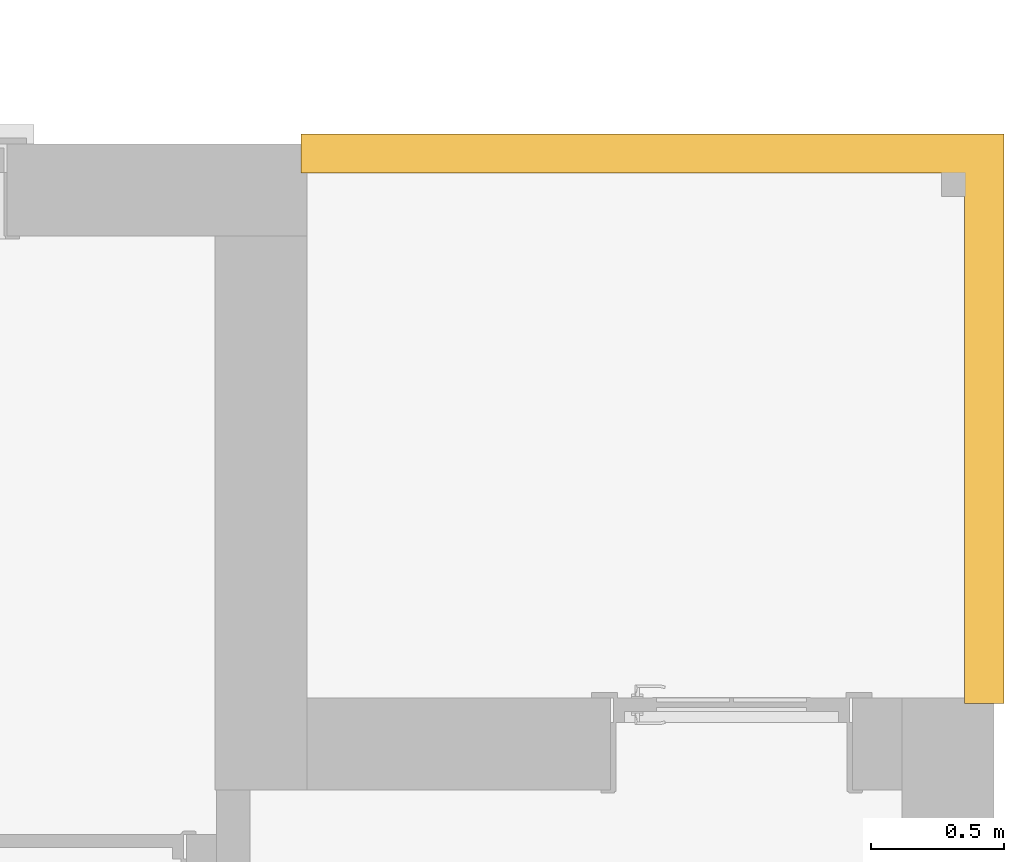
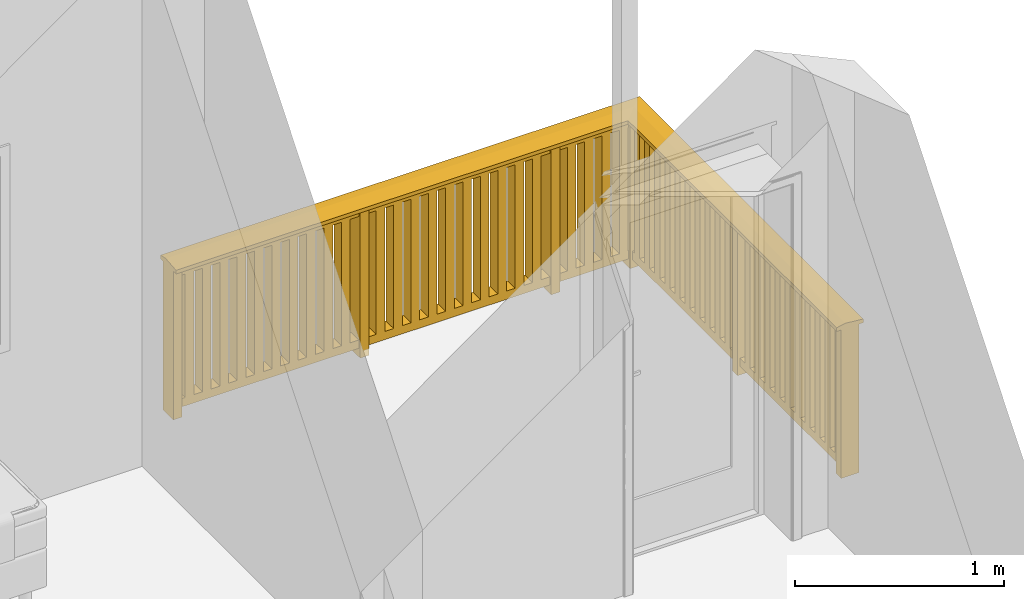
# One storey, part 34 of 44: 1 railing.
"""IFC2X3 building model written with IfcOpenShell, lengths in millimetres."""

import ifcopenshell
import ifcopenshell.guid

model = None  # the IFC model being written
_history = None  # IfcOwnerHistory: only IFC2X3 demands one
_inside = {}  # id of a spatial element -> (the spatial element, [elements in it])
_under = {}  # id of a project, library or spatial element -> (it, [spatial elements below it])
_declared = {}  # id of a project -> (the project, [libraries it declares])
_typed = {}  # id of a type object -> (the type object, [elements of that type])
_made_of = {}  # id of a material, layer set ... -> (it, [elements and type objects made of it])


def new_model(schema):
    """Start an empty IFC model of exactly this schema.

    Asked for "IFC4X3", IfcOpenShell would pick the latest addendum, in which some entities
    have other attributes; the version numbers below select the first issue.
    IFC2X3 requires an IfcOwnerHistory on every rooted entity: one is made here for all.
    """
    global model, _history
    if schema == "IFC4X3":
        model = ifcopenshell.file(schema_version=(4, 3, 0, 0))
    else:
        model = ifcopenshell.file(schema=schema)
    _inside.clear()
    _under.clear()
    _declared.clear()
    _typed.clear()
    _made_of.clear()
    _history = None
    if model.schema == "IFC2X3":
        org = make("IfcOrganization", Name="unknown")
        user = make(
            "IfcPersonAndOrganization",
            ThePerson=make("IfcPerson", FamilyName="unknown"),
            TheOrganization=org,
        )
        app = make(
            "IfcApplication",
            ApplicationDeveloper=org,
            Version="unknown",
            ApplicationFullName="unknown",
            ApplicationIdentifier="unknown",
        )
        _history = make(
            "IfcOwnerHistory",
            OwningUser=user,
            OwningApplication=app,
            ChangeAction="ADDED",
            CreationDate=0,
        )
    return model


def make(cls, **values):
    """One entity of the class cls with the attributes given. An attribute that is None is left unset."""
    return model.create_entity(
        cls, **{name: value for name, value in values.items() if value is not None}
    )


def entity(cls, *values):
    """Any entity or typed value of the class cls, its attributes in the order of the schema. None: left unset."""
    e = model.create_entity(cls)
    for i, value in enumerate(values):
        if value is not None:
            e[i] = value
    return e


def rooted(cls, **values):
    """An entity with a GlobalId (a new one), such as an element, a storey or a relation."""
    return make(cls, GlobalId=ifcopenshell.guid.new(), OwnerHistory=_history, **values)


def si_unit(unit_type, name, prefix=None):
    """IfcSIUnit, for example si_unit("LENGTHUNIT", "METRE", prefix="MILLI")."""
    return make("IfcSIUnit", UnitType=unit_type, Prefix=prefix, Name=name)


def converted_unit(unit_type, name, factor, base, dimensions=None, offset=None):
    """IfcConversionBasedUnit, such as the inch: factor (a typed value) times the base unit."""
    return make(
        "IfcConversionBasedUnit"
        if offset is None
        else "IfcConversionBasedUnitWithOffset",
        ConversionOffset=offset,
        Dimensions=None
        if dimensions is None
        else entity("IfcDimensionalExponents", *dimensions),
        UnitType=unit_type,
        Name=name,
        ConversionFactor=make(
            "IfcMeasureWithUnit", ValueComponent=factor, UnitComponent=base
        ),
    )


def assignment(units):
    """IfcUnitAssignment: the units of a project."""
    return None if units is None else make("IfcUnitAssignment", Units=units)


def point(xyz):
    """IfcCartesianPoint."""
    return None if xyz is None else make("IfcCartesianPoint", Coordinates=xyz)


def direction(xyz):
    """IfcDirection."""
    return None if xyz is None else make("IfcDirection", DirectionRatios=xyz)


def frame(location, z_axis=None, x_axis=None):
    """IfcAxis2Placement3D, a coordinate frame: its origin and axes. An axis left out is left unset."""
    return make(
        "IfcAxis2Placement3D",
        Location=point(location),
        Axis=direction(z_axis),
        RefDirection=direction(x_axis),
    )


def origin():
    """The frame at (0, 0, 0) with its axes left unset."""
    return frame((0.0, 0.0, 0.0))


def place(relative_to, where):
    """IfcLocalPlacement: puts the frame where relative to a parent placement (None: the world)."""
    return make(
        "IfcLocalPlacement", PlacementRelTo=relative_to, RelativePlacement=where
    )


def context(
    kind, dimensions, precision=None, world=None, true_north=None, identifier=None
):
    """IfcGeometricRepresentationContext, for example the 3D "Model" context."""
    return make(
        "IfcGeometricRepresentationContext",
        ContextIdentifier=identifier,
        ContextType=kind,
        CoordinateSpaceDimension=dimensions,
        Precision=precision,
        WorldCoordinateSystem=world,
        TrueNorth=true_north,
    )


def subcontext(parent, identifier, kind, view, scale=None):
    """IfcGeometricRepresentationSubContext, for example "Body" below "Model"."""
    return make(
        "IfcGeometricRepresentationSubContext",
        ContextIdentifier=identifier,
        ContextType=kind,
        ParentContext=parent,
        TargetScale=scale,
        TargetView=view,
    )


def project(units=None, contexts=None):
    """IfcProject with its units and contexts."""
    return rooted(
        "IfcProject",
        Name="project",
        RepresentationContexts=contexts,
        UnitsInContext=assignment(units),
    )


def spatial(cls, under=None, at=None, **own):
    """A site, building, storey or space (cls), placed at a placement, below another one or the project."""
    s = rooted(cls, ObjectPlacement=at, **own)
    if under is not None:
        _under.setdefault(under.id(), (under, []))[1].append(s)
    return s


def faces_of(points, faces, orient=None, outer=None):
    """IfcFace entities. A face is a list of loops; a loop is a list of indices into points, from 0.

    orient and outer hold one flag for each loop. By default every Orientation is true, the
    first loop of a face is its IfcFaceOuterBound and the others are IfcFaceBound.
    """
    made = []
    for i, loops in enumerate(faces):
        bounds = []
        for j, loop in enumerate(loops):
            is_outer = j == 0 if outer is None else outer[i][j]
            bounds.append(
                make(
                    "IfcFaceOuterBound" if is_outer else "IfcFaceBound",
                    Bound=make("IfcPolyLoop", Polygon=[points[k] for k in loop]),
                    Orientation=True if orient is None else orient[i][j],
                )
            )
        made.append(make("IfcFace", Bounds=bounds))
    return made


def faceted_brep(points, faces, orient=None, outer=None, voids=None):
    """IfcFacetedBrep: a solid bounded by flat faces; with voids (closed shells), ...WithVoids."""
    shared = [point(p) for p in points]
    hull = make("IfcClosedShell", CfsFaces=faces_of(shared, faces, orient, outer))
    if voids is None:
        return make("IfcFacetedBrep", Outer=hull)
    return make(
        "IfcFacetedBrepWithVoids",
        Outer=hull,
        Voids=[
            make(cls, CfsFaces=faces_of(shared, fs, o, b)) for cls, fs, o, b in voids
        ],
    )


def shape(context_of_items, identifier, shape_type, items):
    """IfcShapeRepresentation: the items that make up one representation, for example the "Body"."""
    return make(
        "IfcShapeRepresentation",
        ContextOfItems=context_of_items,
        RepresentationIdentifier=identifier,
        RepresentationType=shape_type,
        Items=items,
    )


def material(Name=None, Category=None):
    """IfcMaterial."""
    return make("IfcMaterial", Name=Name, Category=Category)


def made_of(thing, what):
    """Note that an element or type object is made of a material, layer set ...; save() writes the relation."""
    if what is not None:
        _made_of.setdefault(what.id(), (what, []))[1].append(thing)
    return thing


def type_object(cls, material=None, **own):
    """A type object (cls), such as IfcWallType, which elements share."""
    return made_of(rooted(cls, **own), material)


def element(
    cls,
    number,
    at=None,
    inside=None,
    cuts=None,
    type_object=None,
    material=None,
    context=None,
    identifier="Body",
    shape_type=None,
    held_by="IfcProductDefinitionShape",
    body=None,
    shapes=None,
    **own,
):
    """One element of the class cls, such as IfcWall. Its Tag is "e" and its number.

    at: its placement. inside: the storey or other place that contains it. cuts: it is an
    opening in that element (IfcRelVoidsElement). A single representation is given by context,
    identifier, shape_type and body (its items); several are given by shapes. held_by: the class
    of the entity that holds the representations. save() writes the other relations.
    """
    e = rooted(cls, Tag="e%d" % number, ObjectPlacement=at, **own)
    if body is not None:
        shapes = [shape(context, identifier, shape_type, body)]
    if shapes is not None:
        e.Representation = make(held_by, Representations=shapes)
    if inside is not None:
        _inside.setdefault(inside.id(), (inside, []))[1].append(e)
    if cuts is not None:
        rooted(
            "IfcRelVoidsElement", RelatingBuildingElement=cuts, RelatedOpeningElement=e
        )
    if type_object is not None:
        _typed.setdefault(type_object.id(), (type_object, []))[1].append(e)
    return made_of(e, material)


def aggregate(whole, parts):
    """IfcRelAggregates: a whole, such as a stair, and the parts it consists of."""
    return rooted("IfcRelAggregates", RelatingObject=whole, RelatedObjects=parts)


def save(model, path):
    """Write the relations noted so far, then the file.

    IfcRelAggregates (storeys below a building ...), IfcRelContainedInSpatialStructure (elements
    in a storey), IfcRelDefinesByType, IfcRelAssociatesMaterial and IfcRelDeclares: one each for
    every whole, place, type object, material and project.
    """
    for whole, parts in _under.values():
        aggregate(whole, parts)
    for where, things in _inside.values():
        rooted(
            "IfcRelContainedInSpatialStructure",
            RelatedElements=things,
            RelatingStructure=where,
        )
    for kind, things in _typed.values():
        rooted("IfcRelDefinesByType", RelatedObjects=things, RelatingType=kind)
    for what, things in _made_of.values():
        rooted("IfcRelAssociatesMaterial", RelatedObjects=things, RelatingMaterial=what)
    for by, libraries in _declared.values():
        rooted("IfcRelDeclares", RelatingContext=by, RelatedDefinitions=libraries)
    model.write(path)


model = new_model("IFC2X3")

# Units and contexts
model_context = context("Model", 3, precision=0.01, world=origin(), true_north=direction((0.0, 1.0)))
body_context = subcontext(model_context, "Body", "Model", "MODEL_VIEW")
ifc_project = project(units=[si_unit("LENGTHUNIT", "METRE", prefix="MILLI"), si_unit("AREAUNIT", "SQUARE_METRE"), si_unit("VOLUMEUNIT", "CUBIC_METRE"), converted_unit("PLANEANGLEUNIT", "DEGREE", entity("IfcPlaneAngleMeasure", 0.017453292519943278), si_unit("PLANEANGLEUNIT", "RADIAN"), dimensions=[0, 0, 0, 0, 0, 0, 0])], contexts=[model_context])

# Site, building, storey
site_placement = place(None, origin())
site = spatial("IfcSite", under=ifc_project, at=site_placement, Name="Default", CompositionType="ELEMENT")
building_placement = place(site_placement, origin())
building = spatial("IfcBuilding", under=site, at=building_placement, CompositionType="ELEMENT")
storey_placement = place(building_placement, frame((0.0, 0.0, 2681.0)))
storey = spatial("IfcBuildingStorey", under=building, at=storey_placement, Name="Et. 2", CompositionType="ELEMENT", Elevation=2681.0)

# Railing
ifc_material = material(Name="Rekkverk - Tre")
railing_type = type_object("IfcRailingType", Name="Railing:Balkong - Spiler Stående 900mm", PredefinedType="NOTDEFINED")
railing_placement = place(storey_placement, frame((31656.130392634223, 13975.46593487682, 0.0)))
element("IfcRailing", 1, at=railing_placement, inside=storey, type_object=railing_type, material=ifc_material, Name="Railing:Balkong - Spiler Stående 900mm", PredefinedType="NOTDEFINED", context=body_context, shape_type="Brep", body=[
    faceted_brep([(2609.245724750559, 78.37187673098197, 820.0), (2609.245724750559, 78.37187673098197, 98.0), (2536.245724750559, 78.37187673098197, 98.0), (2536.245724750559, 78.37187673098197, 820.0), (2536.245724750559, 30.371876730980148, 98.0), (2536.245724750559, 30.371876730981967, 820.0), (2609.245724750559, 30.371876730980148, 98.0), (2609.245724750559, 30.371876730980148, 820.0)], [[[0, 1, 2, 3]], [[3, 2, 4, 5]], [[5, 4, 6, 7]], [[1, 0, 7, 6]], [[0, 3, 5, 7]], [[2, 1, 6, 4]]]),
    faceted_brep([(2609.245724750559, 174.37187673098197, 820.0), (2609.245724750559, 174.37187673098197, 98.0), (2536.245724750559, 174.37187673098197, 98.0), (2536.245724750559, 174.37187673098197, 820.0), (2536.245724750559, 126.37187673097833, 98.0), (2536.245724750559, 126.37187673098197, 820.0), (2609.245724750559, 126.37187673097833, 98.0), (2609.245724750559, 126.37187673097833, 820.0)], [[[0, 1, 2, 3]], [[3, 2, 4, 5]], [[5, 4, 6, 7]], [[1, 0, 7, 6]], [[0, 3, 5, 7]], [[2, 1, 6, 4]]]),
    faceted_brep([(2609.245724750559, 270.37187673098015, 820.0), (2609.245724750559, 270.37187673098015, 98.0), (2536.245724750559, 270.37187673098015, 98.0), (2536.245724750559, 270.37187673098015, 820.0), (2536.245724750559, 222.37187673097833, 98.0), (2536.245724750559, 222.37187673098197, 820.0), (2609.245724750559, 222.37187673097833, 98.0), (2609.245724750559, 222.37187673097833, 820.0)], [[[0, 1, 2, 3]], [[3, 2, 4, 5]], [[5, 4, 6, 7]], [[1, 0, 7, 6]], [[0, 3, 5, 7]], [[2, 1, 6, 4]]]),
    faceted_brep([(2609.245724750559, 366.37187673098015, 820.0), (2609.245724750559, 366.37187673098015, 98.0), (2536.245724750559, 366.37187673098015, 98.0), (2536.245724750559, 366.37187673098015, 820.0), (2536.245724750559, 318.37187673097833, 98.0), (2536.245724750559, 318.37187673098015, 820.0), (2609.245724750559, 318.37187673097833, 98.0), (2609.245724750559, 318.37187673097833, 820.0)], [[[0, 1, 2, 3]], [[3, 2, 4, 5]], [[5, 4, 6, 7]], [[1, 0, 7, 6]], [[0, 3, 5, 7]], [[2, 1, 6, 4]]]),
    faceted_brep([(2609.245724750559, 462.37187673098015, 820.0), (2609.245724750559, 462.37187673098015, 98.0), (2536.245724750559, 462.37187673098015, 98.0), (2536.245724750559, 462.37187673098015, 820.0), (2536.245724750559, 414.37187673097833, 98.0), (2536.245724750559, 414.37187673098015, 820.0), (2609.245724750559, 414.37187673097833, 98.0), (2609.245724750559, 414.37187673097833, 820.0)], [[[0, 1, 2, 3]], [[3, 2, 4, 5]], [[5, 4, 6, 7]], [[1, 0, 7, 6]], [[0, 3, 5, 7]], [[2, 1, 6, 4]]]),
    faceted_brep([(2609.245724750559, 558.3718767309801, 820.0), (2609.245724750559, 558.3718767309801, 98.0), (2536.245724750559, 558.3718767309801, 98.0), (2536.245724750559, 558.3718767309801, 820.0), (2536.245724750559, 510.37187673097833, 98.0), (2536.245724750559, 510.37187673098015, 820.0), (2609.245724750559, 510.37187673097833, 98.0), (2609.245724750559, 510.37187673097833, 820.0)], [[[0, 1, 2, 3]], [[3, 2, 4, 5]], [[5, 4, 6, 7]], [[1, 0, 7, 6]], [[0, 3, 5, 7]], [[2, 1, 6, 4]]]),
    faceted_brep([(2609.245724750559, 654.3718767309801, 820.0), (2609.245724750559, 654.3718767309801, 98.0), (2536.245724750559, 654.3718767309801, 98.0), (2536.245724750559, 654.3718767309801, 820.0), (2536.245724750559, 606.3718767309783, 98.0), (2536.245724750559, 606.3718767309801, 820.0), (2609.245724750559, 606.3718767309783, 98.0), (2609.245724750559, 606.3718767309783, 820.0)], [[[0, 1, 2, 3]], [[3, 2, 4, 5]], [[5, 4, 6, 7]], [[1, 0, 7, 6]], [[0, 3, 5, 7]], [[2, 1, 6, 4]]]),
    faceted_brep([(2609.245724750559, 750.3718767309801, 820.0), (2609.245724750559, 750.3718767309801, 98.0), (2536.245724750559, 750.3718767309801, 98.0), (2536.245724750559, 750.3718767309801, 820.0), (2536.245724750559, 702.3718767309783, 98.0), (2536.245724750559, 702.3718767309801, 820.0), (2609.245724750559, 702.3718767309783, 98.0), (2609.245724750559, 702.3718767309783, 820.0)], [[[0, 1, 2, 3]], [[3, 2, 4, 5]], [[5, 4, 6, 7]], [[1, 0, 7, 6]], [[0, 3, 5, 7]], [[2, 1, 6, 4]]]),
    faceted_brep([(2609.245724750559, 846.3718767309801, 820.0), (2609.245724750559, 846.3718767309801, 98.0), (2536.245724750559, 846.3718767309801, 98.0), (2536.245724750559, 846.3718767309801, 820.0), (2536.245724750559, 798.3718767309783, 98.0), (2536.245724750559, 798.3718767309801, 820.0), (2609.245724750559, 798.3718767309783, 98.0), (2609.245724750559, 798.3718767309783, 820.0)], [[[0, 1, 2, 3]], [[3, 2, 4, 5]], [[5, 4, 6, 7]], [[1, 0, 7, 6]], [[0, 3, 5, 7]], [[2, 1, 6, 4]]]),
    faceted_brep([(2609.245724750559, 942.3718767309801, 820.0), (2609.245724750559, 942.3718767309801, 98.0), (2536.245724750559, 942.3718767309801, 98.0), (2536.245724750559, 942.3718767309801, 820.0), (2536.245724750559, 894.3718767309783, 98.0), (2536.245724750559, 894.3718767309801, 820.0), (2609.245724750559, 894.3718767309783, 98.0), (2609.245724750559, 894.3718767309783, 820.0)], [[[0, 1, 2, 3]], [[3, 2, 4, 5]], [[5, 4, 6, 7]], [[1, 0, 7, 6]], [[0, 3, 5, 7]], [[2, 1, 6, 4]]]),
    faceted_brep([(2621.7457247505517, 1038.3718767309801, 868.0), (2621.7457247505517, 1038.3718767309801, 0.0), (2523.7457247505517, 1038.3718767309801, 0.0), (2523.7457247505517, 1038.3718767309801, 868.0), (2523.7457247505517, 990.3718767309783, 0.0), (2523.7457247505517, 990.3718767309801, 868.0), (2621.7457247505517, 990.3718767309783, 0.0), (2621.7457247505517, 990.3718767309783, 868.0)], [[[0, 1, 2, 3]], [[3, 2, 4, 5]], [[5, 4, 6, 7]], [[1, 0, 7, 6]], [[0, 3, 5, 7]], [[2, 1, 6, 4]]]),
    faceted_brep([(2609.245724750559, 1134.3718767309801, 820.0), (2609.245724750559, 1134.3718767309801, 98.0), (2536.245724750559, 1134.3718767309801, 98.0), (2536.245724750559, 1134.3718767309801, 820.0), (2536.245724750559, 1086.3718767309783, 98.0), (2536.245724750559, 1086.3718767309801, 820.0), (2609.245724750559, 1086.3718767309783, 98.0), (2609.245724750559, 1086.3718767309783, 820.0)], [[[0, 1, 2, 3]], [[3, 2, 4, 5]], [[5, 4, 6, 7]], [[1, 0, 7, 6]], [[0, 3, 5, 7]], [[2, 1, 6, 4]]]),
    faceted_brep([(2609.245724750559, 1230.3718767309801, 820.0), (2609.245724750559, 1230.3718767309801, 98.0), (2536.245724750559, 1230.3718767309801, 98.0), (2536.245724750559, 1230.3718767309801, 820.0), (2536.245724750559, 1182.3718767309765, 98.0), (2536.245724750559, 1182.3718767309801, 820.0), (2609.245724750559, 1182.3718767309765, 98.0), (2609.245724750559, 1182.3718767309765, 820.0)], [[[0, 1, 2, 3]], [[3, 2, 4, 5]], [[5, 4, 6, 7]], [[1, 0, 7, 6]], [[0, 3, 5, 7]], [[2, 1, 6, 4]]]),
    faceted_brep([(2609.245724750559, 1326.3718767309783, 820.0), (2609.245724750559, 1326.3718767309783, 98.0), (2536.245724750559, 1326.3718767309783, 98.0), (2536.245724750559, 1326.3718767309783, 820.0), (2536.245724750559, 1278.3718767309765, 98.0), (2536.245724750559, 1278.3718767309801, 820.0), (2609.245724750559, 1278.3718767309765, 98.0), (2609.245724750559, 1278.3718767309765, 820.0)], [[[0, 1, 2, 3]], [[3, 2, 4, 5]], [[5, 4, 6, 7]], [[1, 0, 7, 6]], [[0, 3, 5, 7]], [[2, 1, 6, 4]]]),
    faceted_brep([(2609.245724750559, 1422.3718767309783, 820.0), (2609.245724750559, 1422.3718767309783, 98.0), (2536.245724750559, 1422.3718767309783, 98.0), (2536.245724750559, 1422.3718767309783, 820.0), (2536.245724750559, 1374.3718767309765, 98.0), (2536.245724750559, 1374.3718767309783, 820.0), (2609.245724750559, 1374.3718767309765, 98.0), (2609.245724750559, 1374.3718767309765, 820.0)], [[[0, 1, 2, 3]], [[3, 2, 4, 5]], [[5, 4, 6, 7]], [[1, 0, 7, 6]], [[0, 3, 5, 7]], [[2, 1, 6, 4]]]),
    faceted_brep([(2609.245724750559, 1518.3718767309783, 820.0), (2609.245724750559, 1518.3718767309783, 98.0), (2536.245724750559, 1518.3718767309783, 98.0), (2536.245724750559, 1518.3718767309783, 820.0), (2536.245724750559, 1470.3718767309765, 98.0), (2536.245724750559, 1470.3718767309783, 820.0), (2609.245724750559, 1470.3718767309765, 98.0), (2609.245724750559, 1470.3718767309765, 820.0)], [[[0, 1, 2, 3]], [[3, 2, 4, 5]], [[5, 4, 6, 7]], [[1, 0, 7, 6]], [[0, 3, 5, 7]], [[2, 1, 6, 4]]]),
    faceted_brep([(2609.245724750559, 1614.3718767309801, 820.0), (2609.245724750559, 1614.3718767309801, 98.0), (2536.245724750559, 1614.3718767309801, 98.0), (2536.245724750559, 1614.3718767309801, 820.0), (2536.245724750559, 1566.3718767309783, 98.0), (2536.245724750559, 1566.3718767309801, 820.0), (2609.245724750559, 1566.3718767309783, 98.0), (2609.245724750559, 1566.3718767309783, 820.0)], [[[0, 1, 2, 3]], [[3, 2, 4, 5]], [[5, 4, 6, 7]], [[1, 0, 7, 6]], [[0, 3, 5, 7]], [[2, 1, 6, 4]]]),
    faceted_brep([(2609.245724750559, 1710.3718767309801, 820.0), (2609.245724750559, 1710.3718767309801, 98.0), (2536.245724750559, 1710.3718767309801, 98.0), (2536.245724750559, 1710.3718767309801, 820.0), (2536.245724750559, 1662.3718767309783, 98.0), (2536.245724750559, 1662.3718767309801, 820.0), (2609.245724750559, 1662.3718767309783, 98.0), (2609.245724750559, 1662.3718767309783, 820.0)], [[[0, 1, 2, 3]], [[3, 2, 4, 5]], [[5, 4, 6, 7]], [[1, 0, 7, 6]], [[0, 3, 5, 7]], [[2, 1, 6, 4]]]),
    faceted_brep([(2609.245724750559, 1806.3718767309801, 820.0), (2609.245724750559, 1806.3718767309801, 98.0), (2536.245724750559, 1806.3718767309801, 98.0), (2536.245724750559, 1806.3718767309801, 820.0), (2536.245724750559, 1758.3718767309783, 98.0), (2536.245724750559, 1758.3718767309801, 820.0), (2609.245724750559, 1758.3718767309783, 98.0), (2609.245724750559, 1758.3718767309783, 820.0)], [[[0, 1, 2, 3]], [[3, 2, 4, 5]], [[5, 4, 6, 7]], [[1, 0, 7, 6]], [[0, 3, 5, 7]], [[2, 1, 6, 4]]]),
    faceted_brep([(2609.245724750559, 1902.3718767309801, 820.0), (2609.245724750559, 1902.3718767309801, 98.0), (2536.245724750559, 1902.3718767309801, 98.0), (2536.245724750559, 1902.3718767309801, 820.0), (2536.245724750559, 1854.3718767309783, 98.0), (2536.245724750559, 1854.3718767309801, 820.0), (2609.245724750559, 1854.3718767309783, 98.0), (2609.245724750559, 1854.3718767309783, 820.0)], [[[0, 1, 2, 3]], [[3, 2, 4, 5]], [[5, 4, 6, 7]], [[1, 0, 7, 6]], [[0, 3, 5, 7]], [[2, 1, 6, 4]]]),
    faceted_brep([(2609.245724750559, 1998.3718767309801, 820.0), (2609.245724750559, 1998.3718767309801, 98.0), (2536.245724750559, 1998.3718767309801, 98.0), (2536.245724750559, 1998.3718767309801, 820.0), (2536.245724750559, 1950.3718767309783, 98.0), (2536.245724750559, 1950.3718767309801, 820.0), (2609.245724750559, 1950.3718767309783, 98.0), (2609.245724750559, 1950.3718767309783, 820.0)], [[[0, 1, 2, 3]], [[3, 2, 4, 5]], [[5, 4, 6, 7]], [[1, 0, 7, 6]], [[0, 3, 5, 7]], [[2, 1, 6, 4]]]),
    faceted_brep([(2472.0, 2106.871876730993, 820.0), (2472.0, 2106.871876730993, 98.0), (2472.0, 2033.871876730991, 98.0), (2472.0, 2033.871876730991, 820.0), (2520.0, 2033.871876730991, 98.0), (2520.0, 2033.871876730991, 820.0), (2520.0, 2106.871876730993, 98.0), (2520.0, 2106.871876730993, 820.0)], [[[0, 1, 2, 3]], [[3, 2, 4, 5]], [[5, 4, 6, 7]], [[1, 0, 7, 6]], [[0, 3, 5, 7]], [[2, 1, 6, 4]]]),
    faceted_brep([(2376.0, 2106.871876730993, 820.0), (2376.0, 2106.871876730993, 98.0), (2376.0, 2033.871876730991, 98.0), (2376.0, 2033.871876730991, 820.0), (2424.0, 2033.871876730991, 98.0), (2424.0, 2033.871876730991, 820.0), (2424.0, 2106.871876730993, 98.0), (2424.0, 2106.871876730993, 820.0)], [[[0, 1, 2, 3]], [[3, 2, 4, 5]], [[5, 4, 6, 7]], [[1, 0, 7, 6]], [[0, 3, 5, 7]], [[2, 1, 6, 4]]]),
    faceted_brep([(2280.0, 2106.871876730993, 820.0), (2280.0, 2106.871876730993, 98.0), (2280.0, 2033.871876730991, 98.0), (2280.0, 2033.871876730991, 820.0), (2328.0, 2033.871876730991, 98.0), (2328.0, 2033.871876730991, 820.0), (2328.0, 2106.871876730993, 98.0), (2328.0, 2106.871876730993, 820.0)], [[[0, 1, 2, 3]], [[3, 2, 4, 5]], [[5, 4, 6, 7]], [[1, 0, 7, 6]], [[0, 3, 5, 7]], [[2, 1, 6, 4]]]),
    faceted_brep([(2184.0, 2106.8718767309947, 820.0), (2184.0, 2106.8718767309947, 98.0), (2184.0, 2033.8718767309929, 98.0), (2184.0, 2033.8718767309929, 820.0), (2232.0, 2033.8718767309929, 98.0), (2232.0, 2033.8718767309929, 820.0), (2232.0, 2106.8718767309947, 98.0), (2232.0, 2106.8718767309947, 820.0)], [[[0, 1, 2, 3]], [[3, 2, 4, 5]], [[5, 4, 6, 7]], [[1, 0, 7, 6]], [[0, 3, 5, 7]], [[2, 1, 6, 4]]]),
    faceted_brep([(2088.0, 2119.3718767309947, 868.0), (2088.0, 2119.3718767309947, 0.0), (2088.0, 2021.3718767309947, 0.0), (2088.0, 2021.3718767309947, 868.0), (2136.0, 2021.3718767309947, 0.0), (2136.0, 2021.3718767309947, 868.0), (2136.0, 2119.3718767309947, 0.0), (2136.0, 2119.3718767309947, 868.0)], [[[0, 1, 2, 3]], [[3, 2, 4, 5]], [[5, 4, 6, 7]], [[1, 0, 7, 6]], [[0, 3, 5, 7]], [[2, 1, 6, 4]]]),
    faceted_brep([(1992.0, 2106.8718767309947, 820.0), (1992.0, 2106.8718767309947, 98.0), (1992.0, 2033.8718767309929, 98.0), (1992.0, 2033.8718767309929, 820.0), (2040.0, 2033.8718767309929, 98.0), (2040.0, 2033.8718767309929, 820.0), (2040.0, 2106.8718767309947, 98.0), (2040.0, 2106.8718767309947, 820.0)], [[[0, 1, 2, 3]], [[3, 2, 4, 5]], [[5, 4, 6, 7]], [[1, 0, 7, 6]], [[0, 3, 5, 7]], [[2, 1, 6, 4]]]),
    faceted_brep([(1896.0, 2106.8718767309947, 820.0), (1896.0, 2106.8718767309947, 98.0), (1896.0, 2033.8718767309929, 98.0), (1896.0, 2033.8718767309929, 820.0), (1944.0, 2033.8718767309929, 98.0), (1944.0, 2033.8718767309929, 820.0), (1944.0, 2106.8718767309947, 98.0), (1944.0, 2106.8718767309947, 820.0)], [[[0, 1, 2, 3]], [[3, 2, 4, 5]], [[5, 4, 6, 7]], [[1, 0, 7, 6]], [[0, 3, 5, 7]], [[2, 1, 6, 4]]]),
    faceted_brep([(1800.0, 2106.8718767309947, 820.0), (1800.0, 2106.8718767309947, 98.0), (1800.0, 2033.8718767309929, 98.0), (1800.0, 2033.8718767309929, 820.0), (1848.0, 2033.8718767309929, 98.0), (1848.0, 2033.8718767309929, 820.0), (1848.0, 2106.8718767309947, 98.0), (1848.0, 2106.8718767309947, 820.0)], [[[0, 1, 2, 3]], [[3, 2, 4, 5]], [[5, 4, 6, 7]], [[1, 0, 7, 6]], [[0, 3, 5, 7]], [[2, 1, 6, 4]]]),
    faceted_brep([(1704.0, 2106.8718767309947, 820.0), (1704.0, 2106.8718767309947, 98.0), (1704.0, 2033.8718767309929, 98.0), (1704.0, 2033.8718767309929, 820.0), (1752.0, 2033.8718767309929, 98.0), (1752.0, 2033.8718767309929, 820.0), (1752.0, 2106.8718767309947, 98.0), (1752.0, 2106.8718767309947, 820.0)], [[[0, 1, 2, 3]], [[3, 2, 4, 5]], [[5, 4, 6, 7]], [[1, 0, 7, 6]], [[0, 3, 5, 7]], [[2, 1, 6, 4]]]),
    faceted_brep([(1608.0, 2106.8718767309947, 820.0), (1608.0, 2106.8718767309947, 98.0), (1608.0, 2033.8718767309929, 98.0), (1608.0, 2033.8718767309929, 820.0), (1656.0, 2033.8718767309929, 98.0), (1656.0, 2033.8718767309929, 820.0), (1656.0, 2106.8718767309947, 98.0), (1656.0, 2106.8718767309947, 820.0)], [[[0, 1, 2, 3]], [[3, 2, 4, 5]], [[5, 4, 6, 7]], [[1, 0, 7, 6]], [[0, 3, 5, 7]], [[2, 1, 6, 4]]]),
    faceted_brep([(1512.0, 2106.8718767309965, 820.0), (1512.0, 2106.8718767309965, 98.0), (1512.0, 2033.8718767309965, 98.0), (1512.0, 2033.8718767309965, 820.0), (1560.0, 2033.8718767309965, 98.0), (1560.0, 2033.8718767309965, 820.0), (1560.0, 2106.8718767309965, 98.0), (1560.0, 2106.8718767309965, 820.0)], [[[0, 1, 2, 3]], [[3, 2, 4, 5]], [[5, 4, 6, 7]], [[1, 0, 7, 6]], [[0, 3, 5, 7]], [[2, 1, 6, 4]]]),
    faceted_brep([(1416.0, 2106.8718767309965, 820.0), (1416.0, 2106.8718767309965, 98.0), (1416.0, 2033.8718767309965, 98.0), (1416.0, 2033.8718767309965, 820.0), (1464.0, 2033.8718767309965, 98.0), (1464.0, 2033.8718767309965, 820.0), (1464.0, 2106.8718767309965, 98.0), (1464.0, 2106.8718767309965, 820.0)], [[[0, 1, 2, 3]], [[3, 2, 4, 5]], [[5, 4, 6, 7]], [[1, 0, 7, 6]], [[0, 3, 5, 7]], [[2, 1, 6, 4]]]),
    faceted_brep([(1320.0, 2106.8718767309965, 820.0), (1320.0, 2106.8718767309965, 98.0), (1320.0, 2033.8718767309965, 98.0), (1320.0, 2033.8718767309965, 820.0), (1368.0, 2033.8718767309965, 98.0), (1368.0, 2033.8718767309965, 820.0), (1368.0, 2106.8718767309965, 98.0), (1368.0, 2106.8718767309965, 820.0)], [[[0, 1, 2, 3]], [[3, 2, 4, 5]], [[5, 4, 6, 7]], [[1, 0, 7, 6]], [[0, 3, 5, 7]], [[2, 1, 6, 4]]]),
    faceted_brep([(1224.0, 2106.8718767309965, 820.0), (1224.0, 2106.8718767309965, 98.0), (1224.0, 2033.8718767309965, 98.0), (1224.0, 2033.8718767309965, 820.0), (1272.0, 2033.8718767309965, 98.0), (1272.0, 2033.8718767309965, 820.0), (1272.0, 2106.8718767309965, 98.0), (1272.0, 2106.8718767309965, 820.0)], [[[0, 1, 2, 3]], [[3, 2, 4, 5]], [[5, 4, 6, 7]], [[1, 0, 7, 6]], [[0, 3, 5, 7]], [[2, 1, 6, 4]]]),
    faceted_brep([(1128.0, 2106.8718767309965, 820.0), (1128.0, 2106.8718767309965, 98.0), (1128.0, 2033.8718767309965, 98.0), (1128.0, 2033.8718767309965, 820.0), (1176.0, 2033.8718767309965, 98.0), (1176.0, 2033.8718767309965, 820.0), (1176.0, 2106.8718767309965, 98.0), (1176.0, 2106.8718767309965, 820.0)], [[[0, 1, 2, 3]], [[3, 2, 4, 5]], [[5, 4, 6, 7]], [[1, 0, 7, 6]], [[0, 3, 5, 7]], [[2, 1, 6, 4]]]),
    faceted_brep([(1032.0, 2119.3718767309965, 868.0), (1032.0, 2119.3718767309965, 0.0), (1032.0, 2021.3718767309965, 0.0), (1032.0, 2021.3718767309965, 868.0), (1080.0, 2021.3718767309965, 0.0), (1080.0, 2021.3718767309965, 868.0), (1080.0, 2119.3718767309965, 0.0), (1080.0, 2119.3718767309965, 868.0)], [[[0, 1, 2, 3]], [[3, 2, 4, 5]], [[5, 4, 6, 7]], [[1, 0, 7, 6]], [[0, 3, 5, 7]], [[2, 1, 6, 4]]]),
    faceted_brep([(936.0, 2106.8718767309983, 820.0), (936.0, 2106.8718767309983, 98.0), (936.0, 2033.8718767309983, 98.0), (936.0, 2033.8718767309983, 820.0), (984.0, 2033.8718767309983, 98.0), (984.0, 2033.8718767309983, 820.0), (984.0, 2106.8718767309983, 98.0), (984.0, 2106.8718767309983, 820.0)], [[[0, 1, 2, 3]], [[3, 2, 4, 5]], [[5, 4, 6, 7]], [[1, 0, 7, 6]], [[0, 3, 5, 7]], [[2, 1, 6, 4]]]),
    faceted_brep([(840.0, 2106.8718767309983, 820.0), (840.0, 2106.8718767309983, 98.0), (840.0, 2033.8718767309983, 98.0), (840.0, 2033.8718767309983, 820.0), (888.0, 2033.8718767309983, 98.0), (888.0, 2033.8718767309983, 820.0), (888.0, 2106.8718767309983, 98.0), (888.0, 2106.8718767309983, 820.0)], [[[0, 1, 2, 3]], [[3, 2, 4, 5]], [[5, 4, 6, 7]], [[1, 0, 7, 6]], [[0, 3, 5, 7]], [[2, 1, 6, 4]]]),
    faceted_brep([(744.0, 2106.8718767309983, 820.0), (744.0, 2106.8718767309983, 98.0), (744.0, 2033.8718767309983, 98.0), (744.0, 2033.8718767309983, 820.0), (792.0, 2033.8718767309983, 98.0), (792.0, 2033.8718767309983, 820.0), (792.0, 2106.8718767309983, 98.0), (792.0, 2106.8718767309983, 820.0)], [[[0, 1, 2, 3]], [[3, 2, 4, 5]], [[5, 4, 6, 7]], [[1, 0, 7, 6]], [[0, 3, 5, 7]], [[2, 1, 6, 4]]]),
    faceted_brep([(648.0, 2106.8718767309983, 820.0), (648.0, 2106.8718767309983, 98.0), (648.0, 2033.8718767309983, 98.0), (648.0, 2033.8718767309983, 820.0), (696.0, 2033.8718767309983, 98.0), (696.0, 2033.8718767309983, 820.0), (696.0, 2106.8718767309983, 98.0), (696.0, 2106.8718767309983, 820.0)], [[[0, 1, 2, 3]], [[3, 2, 4, 5]], [[5, 4, 6, 7]], [[1, 0, 7, 6]], [[0, 3, 5, 7]], [[2, 1, 6, 4]]]),
    faceted_brep([(552.0, 2106.8718767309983, 820.0), (552.0, 2106.8718767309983, 98.0), (552.0, 2033.8718767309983, 98.0), (552.0, 2033.8718767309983, 820.0), (600.0, 2033.8718767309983, 98.0), (600.0, 2033.8718767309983, 820.0), (600.0, 2106.8718767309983, 98.0), (600.0, 2106.8718767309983, 820.0)], [[[0, 1, 2, 3]], [[3, 2, 4, 5]], [[5, 4, 6, 7]], [[1, 0, 7, 6]], [[0, 3, 5, 7]], [[2, 1, 6, 4]]]),
    faceted_brep([(456.0, 2106.8718767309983, 820.0), (456.0, 2106.8718767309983, 98.0), (456.0, 2033.8718767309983, 98.0), (456.0, 2033.8718767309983, 820.0), (504.0, 2033.8718767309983, 98.0), (504.0, 2033.8718767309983, 820.0), (504.0, 2106.8718767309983, 98.0), (504.0, 2106.8718767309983, 820.0)], [[[0, 1, 2, 3]], [[3, 2, 4, 5]], [[5, 4, 6, 7]], [[1, 0, 7, 6]], [[0, 3, 5, 7]], [[2, 1, 6, 4]]]),
    faceted_brep([(360.0, 2106.8718767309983, 820.0), (360.0, 2106.8718767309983, 98.0), (360.0, 2033.8718767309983, 98.0), (360.0, 2033.8718767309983, 820.0), (408.0, 2033.8718767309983, 98.0), (408.0, 2033.8718767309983, 820.0), (408.0, 2106.8718767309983, 98.0), (408.0, 2106.8718767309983, 820.0)], [[[0, 1, 2, 3]], [[3, 2, 4, 5]], [[5, 4, 6, 7]], [[1, 0, 7, 6]], [[0, 3, 5, 7]], [[2, 1, 6, 4]]]),
    faceted_brep([(264.0, 2106.871876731, 820.0), (264.0, 2106.871876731, 98.0), (264.0, 2033.8718767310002, 98.0), (264.0, 2033.8718767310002, 820.0), (312.0, 2033.8718767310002, 98.0), (312.0, 2033.8718767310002, 820.0), (312.0, 2106.871876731, 98.0), (312.0, 2106.871876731, 820.0)], [[[0, 1, 2, 3]], [[3, 2, 4, 5]], [[5, 4, 6, 7]], [[1, 0, 7, 6]], [[0, 3, 5, 7]], [[2, 1, 6, 4]]]),
    faceted_brep([(168.0, 2106.871876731, 820.0), (168.0, 2106.871876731, 98.0), (168.0, 2033.8718767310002, 98.0), (168.0, 2033.8718767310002, 820.0), (216.0, 2033.8718767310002, 98.0), (216.0, 2033.8718767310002, 820.0), (216.0, 2106.871876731, 98.0), (216.0, 2106.871876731, 820.0)], [[[0, 1, 2, 3]], [[3, 2, 4, 5]], [[5, 4, 6, 7]], [[1, 0, 7, 6]], [[0, 3, 5, 7]], [[2, 1, 6, 4]]]),
    faceted_brep([(72.0, 2106.871876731, 820.0), (72.0, 2106.871876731, 98.0), (72.0, 2033.8718767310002, 98.0), (72.0, 2033.8718767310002, 820.0), (120.0, 2033.8718767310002, 98.0), (120.0, 2033.8718767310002, 820.0), (120.0, 2106.871876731, 98.0), (120.0, 2106.871876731, 820.0)], [[[0, 1, 2, 3]], [[3, 2, 4, 5]], [[5, 4, 6, 7]], [[1, 0, 7, 6]], [[0, 3, 5, 7]], [[2, 1, 6, 4]]]),
    faceted_brep([(2523.7457247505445, 2119.371876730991, 868.0), (2523.7457247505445, 2119.371876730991, 0.0), (2523.7457247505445, 2021.3718767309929, 0.0), (2523.7457247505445, 2021.3718767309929, 868.0), (2621.7457247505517, 2021.3718767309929, 0.0), (2621.7457247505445, 2021.3718767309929, 868.0), (2621.7457247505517, 2119.371876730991, 0.0), (2621.7457247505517, 2119.371876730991, 868.0)], [[[0, 1, 2, 3]], [[3, 2, 4, 5]], [[5, 4, 6, 7]], [[1, 0, 7, 6]], [[0, 3, 5, 7]], [[2, 1, 6, 4]]]),
    faceted_brep([(2621.7457247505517, 48.0, 868.0), (2621.7457247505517, 48.0, 0.0), (2523.7457247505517, 48.0, 0.0), (2523.7457247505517, 48.0, 868.0), (2523.7457247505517, 0.0, 0.0), (2523.7457247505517, 0.0, 868.0), (2621.7457247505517, 0.0, 0.0), (2621.7457247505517, 0.0, 868.0)], [[[0, 1, 2, 3]], [[3, 2, 4, 5]], [[5, 4, 6, 7]], [[1, 0, 7, 6]], [[0, 3, 5, 7]], [[2, 1, 6, 4]]]),
    faceted_brep([(0.0, 2119.371876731, 868.0), (0.0, 2119.371876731, 0.0), (0.0, 2021.3718767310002, 0.0), (0.0, 2021.3718767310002, 868.0), (48.0, 2021.3718767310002, 0.0), (48.0, 2021.3718767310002, 868.0), (48.0, 2119.371876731, 0.0), (48.0, 2119.371876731, 868.0)], [[[0, 1, 2, 3]], [[3, 2, 4, 5]], [[5, 4, 6, 7]], [[1, 0, 7, 6]], [[0, 3, 5, 7]], [[2, 1, 6, 4]]]),
    faceted_brep([(0.0, 2033.8718767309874, 868.0), (0.0, 2106.8718767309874, 868.0), (0.0, 2106.8718767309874, 820.0), (0.0, 2033.8718767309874, 820.0), (2536.2457247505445, 2033.8718767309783, 868.0), (2609.2457247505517, 2106.87187673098, 868.0), (2609.2457247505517, 2106.87187673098, 820.0), (2536.2457247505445, 2033.8718767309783, 820.0), (2536.2457247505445, 0.0, 868.0), (2536.2457247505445, 0.0, 820.0), (2609.2457247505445, 0.0, 820.0), (2609.2457247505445, 0.0, 868.0)], [[[0, 1, 2, 3]], [[1, 0, 4, 5]], [[2, 1, 5, 6]], [[3, 2, 6, 7]], [[0, 3, 7, 4]], [[8, 9, 10, 11]], [[5, 4, 8, 11]], [[6, 5, 11, 10]], [[7, 6, 10, 9]], [[4, 7, 9, 8]]]),
    faceted_brep([(0.0, 2033.8718767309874, 98.0), (0.0, 2106.8718767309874, 98.0), (0.0, 2106.8718767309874, 50.0), (0.0, 2033.8718767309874, 50.0), (2536.2457247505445, 2033.8718767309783, 98.0), (2609.2457247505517, 2106.87187673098, 98.0), (2609.2457247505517, 2106.87187673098, 50.0), (2536.2457247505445, 2033.8718767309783, 50.0), (2536.2457247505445, 0.0, 98.0), (2536.2457247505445, 0.0, 50.0), (2609.2457247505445, 0.0, 50.0), (2609.2457247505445, 0.0, 98.0)], [[[0, 1, 2, 3]], [[1, 0, 4, 5]], [[2, 1, 5, 6]], [[3, 2, 6, 7]], [[0, 3, 7, 4]], [[8, 9, 10, 11]], [[5, 4, 8, 11]], [[6, 5, 11, 10]], [[7, 6, 10, 9]], [[4, 7, 9, 8]]]),
    faceted_brep([(0.0, 1996.3718767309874, 868.0), (0.0, 1996.3718767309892, 889.3333333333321), (0.0, 2045.8563711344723, 894.0704619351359), (0.0, 2095.340865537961, 898.8075905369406), (0.0, 2144.3718767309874, 889.3333333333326), (0.0, 2144.3718767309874, 868.0), (2646.7457247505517, 2144.37187673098, 868.0), (2646.7457247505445, 0.0, 868.0), (2498.7457247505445, 0.0, 868.0), (2498.7457247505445, 1996.3718767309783, 868.0), (2498.7457247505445, 1996.3718767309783, 889.3333333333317), (2572.7457247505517, 2070.3718767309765, 900.0), (2646.7457247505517, 2144.3718767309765, 889.3333333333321), (2547.7767359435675, 0.0, 898.8075905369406), (2498.7457247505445, 0.0, 889.3333333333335), (2646.7457247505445, 0.0, 889.3333333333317), (2597.2612303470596, 0.0, 894.0704619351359)], [[[0, 1, 2, 3, 4, 5]], [[0, 5, 6, 7, 8, 9]], [[1, 0, 9, 10]], [[11, 2, 10]], [[2, 1, 10]], [[3, 12, 4]], [[12, 3, 11]], [[11, 3, 2]], [[5, 4, 12, 6]], [[13, 14, 8, 7, 15, 16]], [[10, 9, 8, 14]], [[10, 14, 13]], [[10, 13, 11]], [[12, 11, 16]], [[16, 15, 12]], [[11, 13, 16]], [[6, 12, 15, 7]]]),
])

save(model, "model.ifc")
